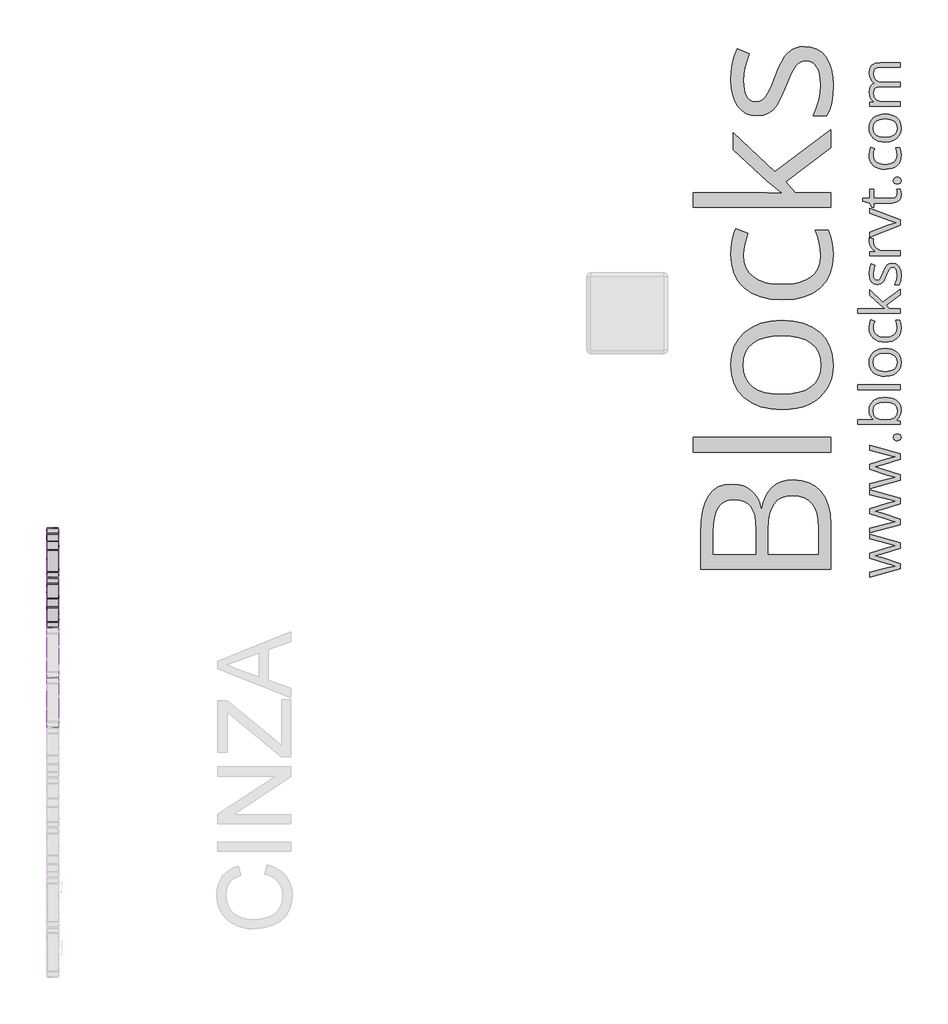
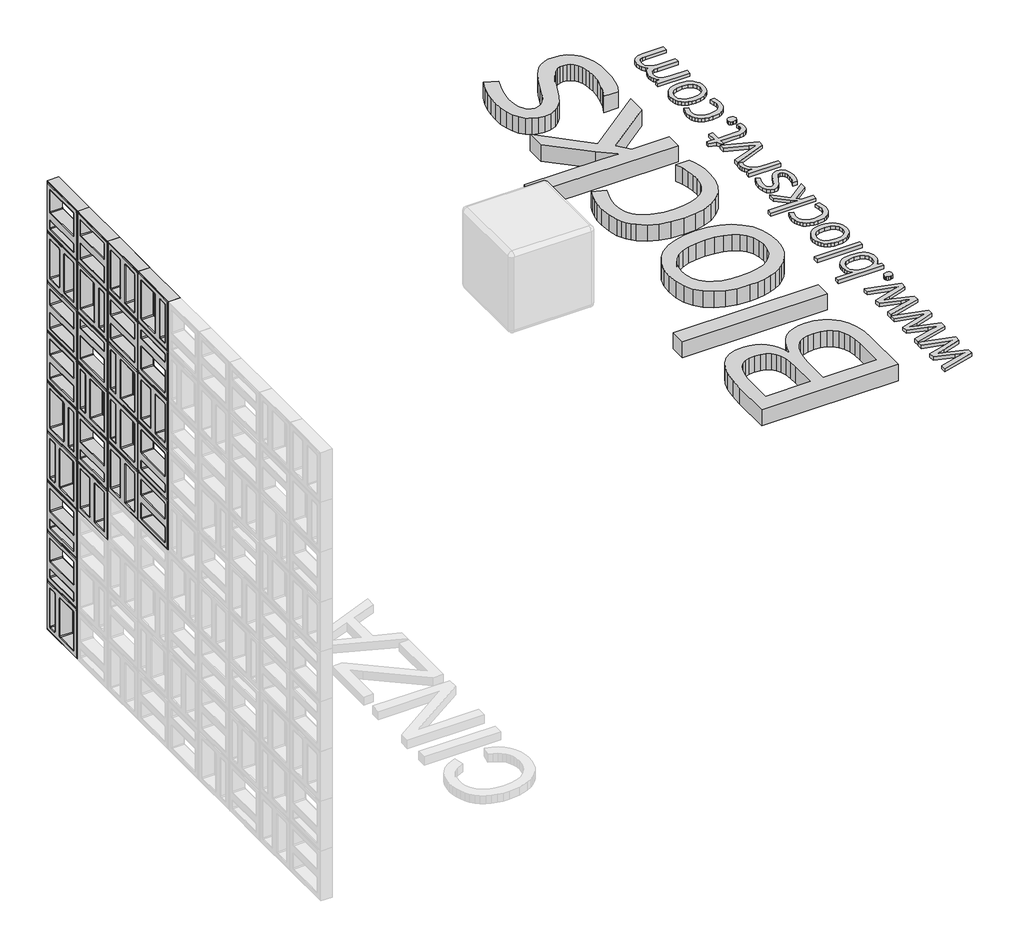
# One storey, part 8 of 8: 27 proxies.
"""IFC4 building model written with IfcOpenShell, lengths in millimetres."""

from ifc_helpers import new_model, si_unit, origin, origin_with_axes, place, context, project, spatial, polyline, outline, extrude, transform, mapped, element, save
from components import plate_08ec880d, generic_models_726e0611, generic_models_d4af8894, generic_models_55a6a26f, generic_models_a87dd402, sim_branco_8a5b93f5, sim_branco_d7bac734

model = new_model("IFC4")

# Units and contexts
model_context = context("Model", 3, world=origin())
ifc_project = project(units=[si_unit("LENGTHUNIT", "METRE", prefix="MILLI")], contexts=[model_context])

# Site, building, storey
site = spatial("IfcSite", under=ifc_project)
building = spatial("IfcBuilding", under=site)
storey = spatial("IfcBuildingStorey", under=building, Name="PORTOBELLO - SHOWROOM", Elevation=0.0)

# Proxies
placement = place(None, origin())
plate_shape = plate_08ec880d(model_context)
element("IfcBuildingElementProxy", 1, Name="PORTOBELLO - ELEMENTO ASSIM CINZA 30X30 (COBOGO) : ASSIM CINZA", ObjectType="PORTOBELLO - ELEMENTO ASSIM CINZA 30X30 (COBOGO) : ASSIM CINZA", at=placement, inside=storey, context=model_context, shape_type="MappedRepresentation", body=[
    mapped(plate_shape, transform((152562.9354422, 13194.1065277, 0.0), x_axis=(0.0, 1.0, 0.0), y_axis=(-1.0, 0.0, 0.0), z_axis=(0.0, 0.0, 1.0))),
])
element("IfcBuildingElementProxy", 2, Name="PORTOBELLO - ELEMENTO ASSIM CINZA 30X30 (COBOGO) : ASSIM CINZA", ObjectType="PORTOBELLO - ELEMENTO ASSIM CINZA 30X30 (COBOGO) : ASSIM CINZA", at=placement, inside=storey, context=model_context, shape_type="MappedRepresentation", body=[
    mapped(plate_shape, transform((152562.9354422, 13194.1065277, 924.0), x_axis=(0.0, 1.0, 0.0), y_axis=(-1.0, 0.0, 0.0), z_axis=(0.0, 0.0, 1.0))),
])
element("IfcBuildingElementProxy", 3, Name="PORTOBELLO - ELEMENTO ASSIM CINZA 30X30 (COBOGO) : ASSIM CINZA", ObjectType="PORTOBELLO - ELEMENTO ASSIM CINZA 30X30 (COBOGO) : ASSIM CINZA", at=placement, inside=storey, context=model_context, shape_type="MappedRepresentation", body=[
    mapped(plate_shape, transform((152562.9354422, 12886.1065277, 1540.0), x_axis=(0.0, 1.0, 0.0), y_axis=(-1.0, 0.0, 0.0), z_axis=(0.0, 0.0, 1.0))),
])
element("IfcBuildingElementProxy", 4, Name="PORTOBELLO - ELEMENTO ASSIM CINZA 30X30 (COBOGO) : ASSIM CINZA", ObjectType="PORTOBELLO - ELEMENTO ASSIM CINZA 30X30 (COBOGO) : ASSIM CINZA", at=placement, inside=storey, context=model_context, shape_type="MappedRepresentation", body=[
    mapped(plate_shape, transform((152562.9354422, 12578.1065277, 1848.0), x_axis=(0.0, 1.0, 0.0), y_axis=(-1.0, 0.0, 0.0), z_axis=(0.0, 0.0, 1.0))),
])
generic_models_shape = generic_models_726e0611(model_context)
element("IfcBuildingElementProxy", 5, Name="PORTOBELLO - ELEMENTO ASSIM CINZA 30X30 (COBOGO) : ASSIM CINZA", ObjectType="PORTOBELLO - ELEMENTO ASSIM CINZA 30X30 (COBOGO) : ASSIM CINZA", at=placement, inside=storey, context=model_context, shape_type="MappedRepresentation", body=[
    mapped(generic_models_shape, transform((152562.9354422, 12886.1065277, 1848.0), x_axis=(0.0, 1.0, 0.0), y_axis=(-1.0, 0.0, 0.0), z_axis=(0.0, 0.0, 1.0))),
])
element("IfcBuildingElementProxy", 6, Name="PORTOBELLO - ELEMENTO ASSIM CINZA 30X30 (COBOGO) : ASSIM CINZA", ObjectType="PORTOBELLO - ELEMENTO ASSIM CINZA 30X30 (COBOGO) : ASSIM CINZA", at=placement, inside=storey, context=model_context, shape_type="MappedRepresentation", body=[
    mapped(generic_models_shape, transform((152562.9354422, 12270.1065277, 2156.0), x_axis=(0.0, 1.0, 0.0), y_axis=(-1.0, 0.0, 0.0), z_axis=(0.0, 0.0, 1.0))),
])
generic_models_2_shape = generic_models_d4af8894(model_context)
element("IfcBuildingElementProxy", 7, Name="PORTOBELLO - ELEMENTO ASSIM CINZA 30X30 (COBOGO) : ASSIM CINZA", ObjectType="PORTOBELLO - ELEMENTO ASSIM CINZA 30X30 (COBOGO) : ASSIM CINZA", at=placement, inside=storey, context=model_context, shape_type="MappedRepresentation", body=[
    mapped(generic_models_2_shape, transform((152562.9354422, 13194.1065277, 308.0), x_axis=(0.0, 1.0, 0.0), y_axis=(-1.0, 0.0, 0.0), z_axis=(0.0, 0.0, 1.0))),
])
element("IfcBuildingElementProxy", 8, Name="PORTOBELLO - ELEMENTO ASSIM CINZA 30X30 (COBOGO) : ASSIM CINZA", ObjectType="PORTOBELLO - ELEMENTO ASSIM CINZA 30X30 (COBOGO) : ASSIM CINZA", at=placement, inside=storey, context=model_context, shape_type="MappedRepresentation", body=[
    mapped(generic_models_2_shape, transform((152562.9354422, 13194.1065277, 616.0), x_axis=(0.0, 1.0, 0.0), y_axis=(-1.0, 0.0, 0.0), z_axis=(0.0, 0.0, 1.0))),
])
element("IfcBuildingElementProxy", 9, Name="PORTOBELLO - ELEMENTO ASSIM CINZA 30X30 (COBOGO) : ASSIM CINZA", ObjectType="PORTOBELLO - ELEMENTO ASSIM CINZA 30X30 (COBOGO) : ASSIM CINZA", at=placement, inside=storey, context=model_context, shape_type="MappedRepresentation", body=[
    mapped(generic_models_2_shape, transform((152562.9354422, 12886.1065277, 1232.0), x_axis=(0.0, 1.0, 0.0), y_axis=(-1.0, 0.0, 0.0), z_axis=(0.0, 0.0, 1.0))),
])
element("IfcBuildingElementProxy", 10, Name="PORTOBELLO - ELEMENTO ASSIM CINZA 30X30 (COBOGO) : ASSIM CINZA", ObjectType="PORTOBELLO - ELEMENTO ASSIM CINZA 30X30 (COBOGO) : ASSIM CINZA", at=placement, inside=storey, context=model_context, shape_type="MappedRepresentation", body=[
    mapped(generic_models_2_shape, transform((152562.9354422, 12270.1065277, 1540.0), x_axis=(0.0, 1.0, 0.0), y_axis=(-1.0, 0.0, 0.0), z_axis=(0.0, 0.0, 1.0))),
])
element("IfcBuildingElementProxy", 11, Name="PORTOBELLO - ELEMENTO ASSIM CINZA 30X30 (COBOGO) : ASSIM CINZA", ObjectType="PORTOBELLO - ELEMENTO ASSIM CINZA 30X30 (COBOGO) : ASSIM CINZA", at=placement, inside=storey, context=model_context, shape_type="MappedRepresentation", body=[
    mapped(generic_models_2_shape, transform((152562.9354422, 13194.1065277, 2464.0), x_axis=(0.0, 1.0, 0.0), y_axis=(-1.0, 0.0, 0.0), z_axis=(0.0, 0.0, 1.0))),
])
generic_models_3_shape = generic_models_55a6a26f(model_context)
element("IfcBuildingElementProxy", 12, Name="PORTOBELLO - ELEMENTO ASSIM CINZA 30X30 (COBOGO) : ASSIM CINZA", ObjectType="PORTOBELLO - ELEMENTO ASSIM CINZA 30X30 (COBOGO) : ASSIM CINZA", at=placement, inside=storey, context=model_context, shape_type="MappedRepresentation", body=[
    mapped(generic_models_3_shape, transform((152562.9354422, 13194.1065277, 1232.0), x_axis=(0.0, 1.0, 0.0), y_axis=(-1.0, 0.0, 0.0), z_axis=(0.0, 0.0, 1.0))),
])
element("IfcBuildingElementProxy", 13, Name="PORTOBELLO - ELEMENTO ASSIM CINZA 30X30 (COBOGO) : ASSIM CINZA", ObjectType="PORTOBELLO - ELEMENTO ASSIM CINZA 30X30 (COBOGO) : ASSIM CINZA", at=placement, inside=storey, context=model_context, shape_type="MappedRepresentation", body=[
    mapped(generic_models_3_shape, transform((152562.9354422, 12886.1065277, 2156.0), x_axis=(0.0, 1.0, 0.0), y_axis=(-1.0, 0.0, 0.0), z_axis=(0.0, 0.0, 1.0))),
])
element("IfcBuildingElementProxy", 14, Name="PORTOBELLO - ELEMENTO ASSIM CINZA 30X30 (COBOGO) : ASSIM CINZA", ObjectType="PORTOBELLO - ELEMENTO ASSIM CINZA 30X30 (COBOGO) : ASSIM CINZA", at=placement, inside=storey, context=model_context, shape_type="MappedRepresentation", body=[
    mapped(generic_models_3_shape, transform((152562.9354422, 12270.1065277, 2464.0), x_axis=(0.0, 1.0, 0.0), y_axis=(-1.0, 0.0, 0.0), z_axis=(0.0, 0.0, 1.0))),
])
generic_models_4_shape = generic_models_a87dd402(model_context)
element("IfcBuildingElementProxy", 15, Name="PORTOBELLO - ELEMENTO ASSIM CINZA 30X30 (COBOGO) : ASSIM CINZA", ObjectType="PORTOBELLO - ELEMENTO ASSIM CINZA 30X30 (COBOGO) : ASSIM CINZA", at=placement, inside=storey, context=model_context, shape_type="MappedRepresentation", body=[
    mapped(generic_models_4_shape, transform((152562.9354422, 12578.1065277, 1540.0), x_axis=(0.0, -1.0, 0.0), y_axis=(1.0, 0.0, 0.0), z_axis=(0.0, 0.0, 1.0))),
])
element("IfcBuildingElementProxy", 16, Name="25mm OpenSans", ObjectType="25mm OpenSans", at=placement, inside=storey, context=model_context, shape_type="SweptSolid", body=[
    extrude(outline(polyline([(157789.1453964, 13223.3703802), (157679.3337531, 13188.8902738), (157633.6101337, 13176.672323), (157679.7085368, 13163.2550642), (157789.1453964, 13127.7255632), (157789.1453964, 13094.8195486), (157602.0533406, 13043.4741727), (157602.0533406, 13073.3069605), (157709.3914111, 13101.0409591), (157759.0877384, 13111.9846451), (157733.9022693, 13119.4053636), (157709.3914111, 13126.7511254), (157602.0533406, 13161.2312319), (157602.0533406, 13192.1134142), (157709.4663678, 13225.7689963), (157758.7879114, 13238.8114714), (157739.8238528, 13243.9085306), (157602.0533406, 13279.6629018), (157602.0533406, 13309.1958626), (157789.1453964, 13257.1758759), (157789.1453964, 13223.3703802)])), origin_with_axes(), (0.0, 0.0, 1.0), 20.0),
    extrude(outline(polyline([(157789.1453964, 13496.8126157), (157679.3337531, 13462.3325092), (157633.6101337, 13450.1145585), (157679.7085368, 13436.6972996), (157789.1453964, 13401.1677987), (157789.1453964, 13368.261784), (157602.0533406, 13316.9164081), (157602.0533406, 13346.7491959), (157709.3914111, 13374.4831945), (157759.0877384, 13385.4268805), (157733.9022693, 13392.8475991), (157709.3914111, 13400.1933609), (157602.0533406, 13434.6734673), (157602.0533406, 13465.5556496), (157709.4663678, 13499.2112318), (157758.7879114, 13512.2537068), (157739.8238528, 13517.350766), (157602.0533406, 13553.1051373), (157602.0533406, 13582.638098), (157789.1453964, 13530.6181113), (157789.1453964, 13496.8126157)])), origin_with_axes(), (0.0, 0.0, 1.0), 20.0),
    extrude(outline(polyline([(157789.1453964, 13770.2548511), (157679.3337531, 13735.7747446), (157633.6101337, 13723.5567939), (157679.7085368, 13710.1395351), (157789.1453964, 13674.6100341), (157789.1453964, 13641.7040195), (157602.0533406, 13590.3586436), (157602.0533406, 13620.1914313), (157709.3914111, 13647.92543), (157759.0877384, 13658.8691159), (157733.9022693, 13666.2898345), (157709.3914111, 13673.6355963), (157602.0533406, 13708.1157027), (157602.0533406, 13738.997885), (157709.4663678, 13772.6534672), (157758.7879114, 13785.6959422), (157739.8238528, 13790.7930014), (157602.0533406, 13826.5473727), (157602.0533406, 13856.0803334), (157789.1453964, 13804.0603467), (157789.1453964, 13770.2548511)])), origin_with_axes(), (0.0, 0.0, 1.0), 20.0),
    extrude(outline(polyline([(157770.0314244, 13885.2385104), (157759.6218053, 13886.540884), (157752.079282, 13890.4480047), (157747.4975504, 13896.79122), (157745.9703066, 13905.401877), (157747.4975504, 13914.265513), (157752.079282, 13920.9179249), (157759.6218053, 13925.0780247), (157770.0314244, 13926.4647246), (157780.2349124, 13925.0499159), (157787.7586965, 13920.8054897), (157792.3966456, 13914.1249691), (157793.9426286, 13905.401877), (157788.3583505, 13890.972702), (157780.9844799, 13886.6720583), (157770.0314244, 13885.2385104)])), origin_with_axes(), (0.0, 0.0, 1.0), 20.0),
    extrude(outline(polyline([(157597.2561084, 14073.604831), (157598.8559666, 14091.1892168), (157603.6555412, 14106.6888679), (157611.6548322, 14120.1037843), (157622.8538396, 14131.433966), (157636.9761603, 14140.4358036), (157653.7453915, 14146.8656876), (157695.2245847, 14152.0095948), (157736.8443219, 14146.8188396), (157753.7330153, 14140.3303957), (157768.007592, 14131.2465742), (157779.3541705, 14119.8625173), (157787.4588695, 14106.4733672), (157792.3216888, 14091.0791241), (157793.9426286, 14073.6797877), (157792.2279929, 14056.036842), (157787.0840857, 14039.9867272), (157778.3797327, 14025.979184), (157765.9837597, 14014.4639528), (157765.9837597, 14012.3651637), (157789.1453964, 14006.3686234), (157789.1453964, 13986.0553433), (157525.2976254, 13986.0553433), (157525.2976254, 14014.388996), (157587.8865142, 14014.388996), (157625.6647178, 14013.0397745), (157613.2359512, 14025.5950306), (157604.3582607, 14039.1996813), (157599.0316465, 14055.2029481), (157597.2561084, 14073.604831)]), holes=[polyline([(157621.2422694, 14069.6321231), (157625.4773259, 14044.3623277), (157638.1824956, 14027.3190359), (157660.913131, 14017.621506), (157695.2245847, 14014.388996), (157729.6765824, 14017.7152019), (157752.678936, 14027.6938197), (157765.6370847, 14044.9994601), (157769.9564676, 14070.3067339), (157765.1123874, 14093.3840442), (157750.5801469, 14109.6965076), (157726.9781393, 14119.3940376), (157694.9247577, 14122.6265475), (157662.4778532, 14119.3940376), (157639.4942388, 14109.6965076), (157625.8052617, 14093.2153915), (157621.2422694, 14069.6321231)])]), origin_with_axes(), (0.0, 0.0, 1.0), 20.0),
    extrude(outline(polyline([(157789.1453964, 14229.2900072), (157789.1453964, 14200.9563546), (157525.2976254, 14200.9563546), (157525.2976254, 14229.2900072), (157789.1453964, 14229.2900072)])), origin_with_axes(), (0.0, 0.0, 1.0), 20.0),
    extrude(outline(polyline([(157695.449455, 14454.2352234), (157717.3766477, 14452.7946483), (157736.7599956, 14448.472923), (157753.5994986, 14441.2700475), (157767.8951569, 14431.1860218), (157779.2909258, 14418.5675209), (157787.4307607, 14403.7612198), (157792.3146616, 14386.7671184), (157793.9426286, 14367.5852168), (157790.9537281, 14343.8895132), (157781.9870265, 14323.023427), (157767.4360468, 14305.7927434), (157747.6943119, 14293.0032474), (157723.4645415, 14285.0765708), (157695.449455, 14282.4343452), (157673.5316319, 14283.8632083), (157654.1763928, 14288.1497976), (157637.3837377, 14295.2941132), (157623.1536666, 14305.2961549), (157611.8234849, 14317.8373567), (157603.7304979, 14332.5991523), (157598.8747058, 14349.5815416), (157597.2561084, 14368.7845248), (157598.9121841, 14387.3808268), (157603.8804114, 14403.9673508), (157612.1607903, 14418.5440969), (157623.7533206, 14431.1110651), (157638.1707836, 14441.2278843), (157654.9259603, 14448.4541838), (157674.0188508, 14452.7899635), (157695.449455, 14454.2352234)]), holes=[polyline([(157695.2245847, 14311.8923492), (157727.3810318, 14315.4715342), (157750.8424955, 14326.209089), (157765.1779746, 14343.8801436), (157769.9564676, 14368.2598276), (157765.1967138, 14392.6582507), (157750.9174523, 14410.3855228), (157727.4747278, 14421.1792953), (157695.2245847, 14424.7772194), (157663.3023775, 14421.1792953), (157640.0938928, 14410.3855228), (157625.9551752, 14392.5645548), (157621.2422694, 14367.8850438), (157625.8895881, 14343.5522078), (157639.8315442, 14326.0216972), (157662.9744417, 14315.4246862), (157695.2245847, 14311.8923492)])]), origin_with_axes(), (0.0, 0.0, 1.0), 20.0),
    extrude(outline(polyline([(157793.9426286, 14579.6378714), (157792.3568248, 14560.2943443), (157787.5994134, 14543.2651069), (157779.6703943, 14528.5501593), (157768.5697677, 14516.1495015), (157754.5692516, 14506.3114276), (157737.9405644, 14499.284232), (157696.7986765, 14493.6624755), (157674.3514714, 14495.0889963), (157654.6073941, 14499.3685584), (157637.5664448, 14506.5011619), (157623.2286233, 14516.4868069), (157611.865648, 14529.1099926), (157603.7492371, 14544.1552184), (157598.8793906, 14561.6224842), (157597.2561084, 14581.5117902), (157600.0295082, 14608.75857), (157606.5507458, 14630.0837662), (157630.0122095, 14621.3138261), (157623.7533206, 14600.5882839), (157621.2422694, 14580.7622227), (157625.9317513, 14555.54396), (157640.0001969, 14537.5309153), (157663.4476062, 14526.7230885), (157696.2739793, 14523.1204795), (157727.7370764, 14526.6340773), (157750.9174523, 14537.1748707), (157765.1967138, 14554.6116854), (157769.9564676, 14578.8133471), (157767.4266772, 14602.7807689), (157759.8373059, 14627.3103664), (157784.4980777, 14627.3103664), (157791.5814909, 14605.9102134), (157793.9426286, 14579.6378714)])), origin_with_axes(), (0.0, 0.0, 1.0), 20.0),
    extrude(outline(polyline([(157695.2995415, 14698.8940656), (157667.4156293, 14721.7558753), (157602.0533406, 14781.7212778), (157602.0533406, 14815.077033), (157681.8073259, 14739.8204528), (157789.1453964, 14820.3240057), (157789.1453964, 14786.218683), (157702.7952168, 14720.631524), (157720.7848375, 14699.6436331), (157789.1453964, 14699.6436331), (157789.1453964, 14671.6098075), (157525.2976254, 14671.6098075), (157525.2976254, 14699.6436331), (157666.291278, 14699.6436331), (157695.2995415, 14698.8940656)])), origin_with_axes(), (0.0, 0.0, 1.0), 20.0),
    extrude(outline(polyline([(157738.6995015, 14980.5815439), (157762.1890741, 14975.6812461), (157779.5884104, 14960.9803529), (157790.354074, 14937.4345629), (157793.9426286, 14905.9995745), (157790.9818369, 14872.7000369), (157782.0994616, 14847.6082638), (157755.564771, 14847.6082638), (157766.0961948, 14876.7664408), (157769.9564676, 14906.749142), (157768.1762447, 14926.5658337), (157762.835576, 14941.1917701), (157753.8407657, 14950.2146893), (157741.0981176, 14953.222329), (157730.8103033, 14950.8330825), (157722.1340591, 14943.665343), (157703.5447843, 14906.449315), (157686.3047311, 14869.0458952), (157669.6268535, 14852.5179312), (157647.2522627, 14847.0835666), (157626.5267205, 14851.7683636), (157610.6733672, 14865.8227548), (157600.6104231, 14888.0474321), (157597.2561084, 14917.2430875), (157600.3668136, 14947.2820063), (157609.6989294, 14976.6837927), (157632.8605661, 14966.4896743), (157624.1468436, 14939.4302864), (157621.2422694, 14915.0693416), (157622.84447, 14897.2483736), (157627.6510718, 14884.4120296), (157635.287291, 14876.6540057), (157645.3783439, 14874.0679977), (157658.3833406, 14877.9282705), (157668.577459, 14890.4085699), (157682.6318502, 14923.464498), (157694.9622361, 14951.5451716), (157707.3675787, 14968.7758553), (157721.4219699, 14977.6301217), (157738.6995015, 14980.5815439)])), origin_with_axes(), (0.0, 0.0, 1.0), 20.0),
    extrude(outline(polyline([(157597.2561084, 15113.0301267), (157599.1300272, 15135.6670661), (157623.790799, 15131.6943582), (157621.2422694, 15111.0062943), (157625.936436, 15089.6717285), (157640.018936, 15071.6914773), (157661.1098925, 15059.464157), (157686.8294284, 15055.3883835), (157789.1453964, 15055.3883835), (157789.1453964, 15027.0547308), (157602.0533406, 15027.0547308), (157602.0533406, 15050.4412378), (157635.633966, 15053.6643782), (157619.312133, 15066.6506357), (157607.2253565, 15080.4239391), (157599.7484204, 15095.9962045), (157597.2561084, 15113.0301267)])), origin_with_axes(), (0.0, 0.0, 1.0), 20.0),
    extrude(outline(polyline([(157789.1453964, 15212.6476516), (157602.0533406, 15140.6891686), (157602.0533406, 15171.4963941), (157712.9893352, 15212.3478246), (157763.5101868, 15228.5384832), (157726.0318103, 15241.9557421), (157602.0533406, 15287.3795344), (157602.0533406, 15318.18676), (157789.1453964, 15246.228277), (157789.1453964, 15212.6476516)])), origin_with_axes(), (0.0, 0.0, 1.0), 20.0),
    extrude(outline(polyline([(157769.9564676, 15409.5590421), (157768.8321163, 15424.2505657), (157766.508457, 15435.4940786), (157788.6956559, 15435.4940786), (157792.4434935, 15421.7769928), (157793.9426286, 15405.5113774), (157790.3821828, 15381.5064772), (157779.7008455, 15364.3601199), (157761.8986166, 15354.0723055), (157736.9754962, 15350.6430341), (157626.0395016, 15350.6430341), (157626.0395016, 15323.5086895), (157612.0225887, 15323.5086895), (157599.8795947, 15350.4931206), (157558.8782508, 15362.5611578), (157558.8782508, 15379.0516435), (157602.0533406, 15379.0516435), (157602.0533406, 15434.1448571), (157626.0395016, 15434.1448571), (157626.0395016, 15379.0516435), (157735.2514909, 15379.0516435), (157750.0835584, 15381.0848455), (157760.9991356, 15387.1844512), (157767.7171346, 15396.8445028), (157769.9564676, 15409.5590421)])), origin_with_axes(), (0.0, 0.0, 1.0), 20.0),
    extrude(outline(polyline([(157770.0314244, 15468.3251365), (157759.6218053, 15469.6275101), (157752.079282, 15473.5346308), (157747.4975504, 15479.8778461), (157745.9703066, 15488.4885031), (157747.4975504, 15497.3521392), (157752.079282, 15504.004551), (157759.6218053, 15508.1646508), (157770.0314244, 15509.5513507), (157780.2349124, 15508.136542), (157787.7586965, 15503.8921159), (157792.3966456, 15497.2115952), (157793.9426286, 15488.4885031), (157788.3583505, 15474.0593281), (157780.9844799, 15469.7586844), (157770.0314244, 15468.3251365)])), origin_with_axes(), (0.0, 0.0, 1.0), 20.0),
    extrude(outline(polyline([(157793.9426286, 15644.6234199), (157792.3568248, 15625.2798928), (157787.5994134, 15608.2506554), (157779.6703943, 15593.5357078), (157768.5697677, 15581.13505), (157754.5692516, 15571.2969761), (157737.9405644, 15564.2697805), (157696.7986765, 15558.648024), (157674.3514714, 15560.0745447), (157654.6073941, 15564.3541069), (157637.5664448, 15571.4867104), (157623.2286233, 15581.4723554), (157611.865648, 15594.0955411), (157603.7492371, 15609.1407669), (157598.8793906, 15626.6080327), (157597.2561084, 15646.4973387), (157600.0295082, 15673.7441185), (157606.5507458, 15695.0693147), (157630.0122095, 15686.2993746), (157623.7533206, 15665.5738324), (157621.2422694, 15645.7477712), (157625.9317513, 15620.5295085), (157640.0001969, 15602.5164638), (157663.4476062, 15591.708637), (157696.2739793, 15588.106028), (157727.7370764, 15591.6196258), (157750.9174523, 15602.1604192), (157765.1967138, 15619.5972339), (157769.9564676, 15643.7988956), (157767.4266772, 15667.7663174), (157759.8373059, 15692.2959149), (157784.4980777, 15692.2959149), (157791.5814909, 15670.8957618), (157793.9426286, 15644.6234199)])), origin_with_axes(), (0.0, 0.0, 1.0), 20.0),
    extrude(outline(polyline([(157695.449455, 15898.2021157), (157717.3766477, 15896.7615406), (157736.7599956, 15892.4398153), (157753.5994986, 15885.2369398), (157767.8951569, 15875.1529141), (157779.2909258, 15862.5344132), (157787.4307607, 15847.7281121), (157792.3146616, 15830.7340107), (157793.9426286, 15811.5521091), (157790.9537281, 15787.8564055), (157781.9870265, 15766.9903194), (157767.4360468, 15749.7596357), (157747.6943119, 15736.9701397), (157723.4645415, 15729.0434631), (157695.449455, 15726.4012375), (157673.5316319, 15727.8301006), (157654.1763928, 15732.11669), (157637.3837377, 15739.2610055), (157623.1536666, 15749.2630472), (157611.8234849, 15761.804249), (157603.7304979, 15776.5660446), (157598.8747058, 15793.548434), (157597.2561084, 15812.7514171), (157598.9121841, 15831.3477191), (157603.8804114, 15847.9342431), (157612.1607903, 15862.5109892), (157623.7533206, 15875.0779574), (157638.1707836, 15885.1947766), (157654.9259603, 15892.4210761), (157674.0188508, 15896.7568558), (157695.449455, 15898.2021157)]), holes=[polyline([(157695.2245847, 15755.8592415), (157727.3810318, 15759.4384265), (157750.8424955, 15770.1759814), (157765.1779746, 15787.8470359), (157769.9564676, 15812.2267199), (157765.1967138, 15836.625143), (157750.9174523, 15854.3524151), (157727.4747278, 15865.1461876), (157695.2245847, 15868.7441117), (157663.3023775, 15865.1461876), (157640.0938928, 15854.3524151), (157625.9551752, 15836.5314471), (157621.2422694, 15811.8519361), (157625.8895881, 15787.5191001), (157639.8315442, 15769.9885895), (157662.9744417, 15759.3915785), (157695.2245847, 15755.8592415)])]), origin_with_axes(), (0.0, 0.0, 1.0), 20.0),
    extrude(outline(polyline([(157789.1453964, 16187.2353558), (157666.3662348, 16187.2353558), (157646.6244999, 16184.8367397), (157632.5232607, 16177.6408914), (157624.0625172, 16165.3854623), (157621.2422694, 16147.8081036), (157625.0744334, 16124.7401629), (157636.5709254, 16108.6057218), (157656.0315724, 16099.1049533), (157683.7562015, 16095.9380305), (157789.1453964, 16095.9380305), (157789.1453964, 16067.529421), (157666.3662348, 16067.529421), (157646.6244999, 16065.1308049), (157632.5232607, 16057.9349566), (157624.0625172, 16045.6420491), (157621.2422694, 16027.9522554), (157625.2711949, 16004.7718795), (157637.3579713, 15988.7498735), (157658.6082108, 15979.4177577), (157690.1275255, 15976.3070525), (157789.1453964, 15976.3070525), (157789.1453964, 15947.9733998), (157602.0533406, 15947.9733998), (157602.0533406, 15971.0600798), (157626.0395016, 15975.6324417), (157613.9620947, 15986.7166716), (157604.8642188, 15999.7310378), (157599.158136, 16015.2564553), (157597.2561084, 16032.5246173), (157599.2237232, 16052.6223968), (157605.1265675, 16068.916121), (157614.9646413, 16081.40579), (157628.7379447, 16090.0914037), (157615.7142088, 16101.7190701), (157605.7262215, 16115.7640917), (157599.3736367, 16132.8073834), (157597.2561084, 16152.0806386), (157601.3599906, 16179.936442), (157613.6716373, 16199.7906119), (157635.0155728, 16211.6806269), (157666.2163213, 16215.6439652), (157789.1453964, 16215.6439652), (157789.1453964, 16187.2353558)])), origin_with_axes(), (0.0, 0.0, 1.0), 20.0),
])
element("IfcBuildingElementProxy", 17, Name="80mm OpenSans", ObjectType="80mm OpenSans", at=placement, inside=storey, context=model_context, shape_type="SweptSolid", body=[
    extrude(outline(polyline([(156559.7619894, 13092.5162261), (156559.7619894, 13317.4993467), (156562.6989686, 13391.3294446), (156571.5099061, 13454.1777943), (156586.1948019, 13506.0443958), (156606.7536562, 13546.9292491), (156633.6521789, 13577.8989809), (156667.3560806, 13600.0202178), (156707.8653611, 13613.29296), (156755.1800204, 13617.7172074), (156788.8388533, 13615.2459385), (156819.3879436, 13607.8321318), (156846.8272912, 13595.4757872), (156871.1568962, 13578.1769047), (156891.941094, 13556.1458052), (156908.7442204, 13529.5928094), (156921.5662752, 13498.5179172), (156930.4072586, 13462.9211287), (156935.6953234, 13462.9211287), (156945.6104449, 13505.4547465), (156959.6117983, 13542.3172153), (156977.6993836, 13573.508535), (156999.8732007, 13599.0287057), (157026.1332498, 13618.8777273), (157056.4795308, 13633.0555999), (157090.9120436, 13641.5623235), (157129.4307883, 13644.397898), (157180.6664275, 13639.8835132), (157225.9680168, 13626.3403586), (157265.335556, 13603.7684342), (157298.7690452, 13572.1677402), (157325.4272015, 13532.4696969), (157344.4687416, 13485.6057249), (157355.8936657, 13431.5758242), (157359.7019737, 13370.3799947), (157359.7019737, 13092.5162261), (156559.7619894, 13092.5162261)]), holes=[polyline([(156898.1981366, 13185.5380933), (156898.1981366, 13337.449773), (156896.2676925, 13382.9316372), (156890.4763602, 13421.5480308), (156880.8241396, 13453.298954), (156867.3110309, 13478.1844067), (156849.230957, 13496.9555344), (156825.8778413, 13510.3634828), (156797.2516837, 13518.4082519), (156763.3524842, 13521.0898415), (156732.1498973, 13518.1002822), (156705.6044129, 13509.1316041), (156683.7160311, 13494.1838073), (156666.4847517, 13473.2568918), (156653.4448647, 13445.8250556), (156644.1306596, 13411.3624969), (156638.5421366, 13369.8692157), (156636.6792956, 13321.345212), (156636.6792956, 13185.5380933), (156898.1981366, 13185.5380933)]), polyline([(156975.1154428, 13185.5380933), (157282.7846675, 13185.5380933), (157282.7846675, 13351.1506682), (157280.3734903, 13396.2569596), (157273.1399585, 13435.4292009), (157261.0840721, 13468.6673923), (157244.2058312, 13495.9715337), (157222.2047775, 13517.2665106), (157194.7804528, 13532.4772084), (157161.9328571, 13541.603627), (157123.6619904, 13544.6457666), (157087.967553, 13541.5360239), (157057.3208138, 13532.206796), (157031.7217728, 13516.6580827), (157011.1704301, 13494.8898841), (156995.3963731, 13466.782017), (156984.1291896, 13432.2142979), (156977.3688795, 13391.186727), (156975.1154428, 13343.6993042), (156975.1154428, 13185.5380933)])]), origin_with_axes(), (0.0, 0.0, 1.0), 100.0),
    extrude(outline(polyline([(157359.7019737, 13906.1571056), (157359.7019737, 13815.2985377), (156513.6116057, 13815.2985377), (156513.6116057, 13906.1571056), (157359.7019737, 13906.1571056)])), origin_with_axes(), (0.0, 0.0, 1.0), 100.0),
    extrude(outline(polyline([(157059.2437464, 14627.4972177), (157129.5584831, 14622.8776725), (157191.7157789, 14609.0190367), (157245.7156338, 14585.9213105), (157291.5580478, 14553.5844938), (157328.1012797, 14513.120282), (157354.2035882, 14465.6403707), (157369.8649733, 14411.1447597), (157375.085435, 14349.6334491), (157372.6892806, 14310.5062765), (157365.5008175, 14273.6475634), (157353.5200457, 14239.05731), (157336.7469652, 14206.7355162), (157315.497057, 14177.3281672), (157290.0858025, 14151.4812482), (157260.5132015, 14129.1947592), (157226.779254, 14110.4687002), (157189.4473192, 14095.6410867), (157149.0807564, 14085.0499342), (157105.6795655, 14078.6952427), (157059.2437464, 14076.5770122), (156988.9590556, 14081.1590001), (156926.8918973, 14094.904964), (156873.0422715, 14117.8149038), (156827.4101783, 14149.8888196), (156791.0772671, 14190.1051533), (156765.1251878, 14237.442347), (156749.5539401, 14291.9004007), (156744.3635242, 14353.4793144), (156749.6741234, 14413.1127611), (156765.6059209, 14466.3013788), (156792.1589168, 14513.0451675), (156829.3331109, 14553.3441272), (156875.5661206, 14585.7861043), (156929.2955631, 14608.9589451), (156990.5214384, 14622.8626495), (157059.2437464, 14627.4972177)]), holes=[polyline([(157058.5226467, 14171.0410788), (157113.5665939, 14173.9104549), (157161.6399103, 14182.5185831), (157202.7425958, 14196.8654634), (157236.8746504, 14216.9510959), (157263.6905472, 14242.5952056), (157282.8447592, 14273.6175176), (157294.3372864, 14310.0180318), (157298.1681288, 14351.7967483), (157294.3523093, 14393.5904878), (157282.9048508, 14430.0360707), (157263.8257534, 14461.1334973), (157237.115017, 14486.8827673), (157203.0580769, 14507.0735602), (157161.9403685, 14521.4955551), (157113.7618918, 14530.1487521), (157058.5226467, 14533.033151), (157003.8467608, 14530.1487521), (156956.1565287, 14521.4955551), (156915.4519503, 14507.0735602), (156881.7330258, 14486.8827673), (156855.2851903, 14461.0583827), (156836.3938793, 14429.7356125), (156825.0590926, 14392.9144568), (156821.2808304, 14350.5949154), (156825.0065125, 14308.8537562), (156836.1835585, 14272.5659138), (156854.8119686, 14241.7313882), (156880.8917427, 14216.3501795), (156914.3477663, 14196.5274479), (156955.1049249, 14182.368354), (157003.1632183, 14173.8728976), (157058.5226467, 14171.0410788)])]), origin_with_axes(), (0.0, 0.0, 1.0), 100.0),
    extrude(outline(polyline([(157375.085435, 15029.6305091), (157370.0001795, 14967.6009081), (157354.744413, 14912.9926253), (157329.3181355, 14865.8056607), (157293.721347, 14826.0400143), (157248.8253764, 14794.4919004), (157195.5015525, 14771.9575334), (157133.7498754, 14758.4369132), (157063.5703449, 14753.9300397), (156991.5880651, 14758.5045163), (156928.2740052, 14772.2279458), (156873.6281651, 14795.1003283), (156827.6505449, 14827.1216639), (156808.1301494, 14846.3904256), (156791.2124733, 14867.6008986), (156776.8975167, 14890.7530829), (156765.1852794, 14915.8469784), (156749.568963, 14971.8599035), (156744.3635242, 15035.6396737), (156746.5869151, 15079.3563457), (156753.2570878, 15123.0129261), (156762.9318427, 15161.9222666), (156774.1689804, 15191.3972187), (156849.4037205, 15163.2743286), (156829.3331109, 15096.8129687), (156823.2939006, 15062.9513265), (156821.2808304, 15033.2360078), (156825.040314, 14989.9136872), (156836.3187647, 14952.367676), (156855.1161826, 14920.5979742), (156881.4325675, 14894.6045818), (156915.2679197, 14874.3874988), (156956.6222389, 14859.9467252), (157005.4955253, 14851.2822611), (157061.8877788, 14848.3941064), (157115.6547786, 14851.2109023), (157162.7816516, 14859.6612899), (157203.2683977, 14873.7452693), (157237.115017, 14893.4628405), (157263.8257534, 14918.708843), (157282.9048508, 14949.3781166), (157294.3523093, 14985.4706612), (157298.1681288, 15026.9864767), (157296.1400358, 15065.1897403), (157290.0557566, 15103.8436912), (157279.9152915, 15142.9483295), (157265.7186402, 15182.5036552), (157344.7992457, 15182.5036552), (157358.0494535, 15150.1443041), (157367.5138876, 15113.878996), (157373.1925481, 15073.7077311), (157375.085435, 15029.6305091)])), origin_with_axes(), (0.0, 0.0, 1.0), 100.0),
    extrude(outline(polyline([(157058.7630133, 15414.21704), (156969.3466448, 15485.3655483), (156759.7469855, 15677.6588137), (156759.7469855, 15784.6219426), (157015.4970286, 15543.2938945), (157359.7019737, 15801.4476034), (157359.7019737, 15692.0808086), (157082.7996715, 15481.7600495), (157140.4876511, 15414.4574066), (157359.7019737, 15414.4574066), (157359.7019737, 15324.560305), (156513.6116057, 15324.560305), (156513.6116057, 15414.4574066), (156965.7411461, 15414.4574066), (157058.7630133, 15409.8904416), (157058.7630133, 15414.21704)])), origin_with_axes(), (0.0, 0.0, 1.0), 100.0),
    extrude(outline(polyline([(157197.9352642, 16315.3513553), (157238.038926, 16311.422864), (157273.2601417, 16299.63739), (157303.5989112, 16279.9949334), (157329.0552346, 16252.4954942), (157349.1934472, 16217.9052408), (157363.5778849, 16176.9903417), (157372.2085474, 16129.7507969), (157375.085435, 16076.1866064), (157372.711815, 16019.5051618), (157365.590955, 15969.4037524), (157353.722855, 15925.8823782), (157337.107515, 15888.9410392), (157252.0177451, 15888.9410392), (157271.1569342, 15934.0698649), (157285.7892498, 15982.4436395), (157295.073409, 16031.4784222), (157298.1681288, 16078.5902722), (157296.7409522, 16112.444403), (157292.4594225, 16142.1371873), (157285.3235396, 16167.6686252), (157275.3333035, 16189.0387166), (157262.4135997, 16205.9169575), (157246.4893137, 16217.9728439), (157227.5604454, 16225.2063757), (157205.6269948, 16227.6175529), (157188.4858529, 16225.7021318), (157172.6366814, 16219.9558682), (157158.0794803, 16210.3787622), (157144.8142496, 16196.9708138), (157117.292276, 16151.8119422), (157085.2033373, 16077.6288059), (157055.5180644, 16005.4587397), (157029.9190235, 15957.6858816), (157004.7706698, 15926.6485467), (156976.437459, 15904.6850503), (156943.5372831, 15891.6151174), (156904.6880343, 15887.2584731), (156869.5043759, 15891.0142009), (156838.2266745, 15902.2813844), (156810.8549299, 15921.0600236), (156787.3891424, 15947.3501185), (156768.5654345, 15980.1902028), (156755.1199288, 16018.61881), (156747.0526254, 16062.6359403), (156744.3635242, 16112.2415937), (156746.8573275, 16160.660437), (156754.3387374, 16208.5685013), (156766.8077538, 16255.9657867), (156784.2643768, 16302.8522931), (156858.5376506, 16270.1624379), (156842.2377918, 16225.6946203), (156830.5950355, 16183.3901019), (156823.6093817, 16143.2488827), (156821.2808304, 16105.2709628), (156826.4186661, 16048.123808), (156832.8409607, 16025.5443722), (156841.8321732, 16006.9610308), (156853.0918452, 15992.4488985), (156866.3195187, 15982.0830896), (156881.5151935, 15975.8636043), (156898.6788698, 15973.7904425), (156921.3634659, 15976.8851623), (156940.3824717, 15986.1693215), (156957.1480408, 16002.36402), (156973.0723269, 16026.1903574), (156992.0913326, 16066.5118515), (157018.141061, 16132.19202), (157037.8811665, 16181.5648182), (157057.6813637, 16222.2393507), (157077.5416525, 16254.2156175), (157097.462033, 16277.4936187), (157118.7044296, 16294.0563785), (157142.5307671, 16305.8869212), (157168.9410452, 16312.9852468), (157197.9352642, 16315.3513553)])), origin_with_axes(), (0.0, 0.0, 1.0), 100.0),
])
sim_branco_shape = sim_branco_8a5b93f5(model_context)
element("IfcBuildingElementProxy", 18, Name="PORTOBELLO - ELEMENTO SIM CINZA 30X30 (COBOGO) : SIM CINZA", ObjectType="PORTOBELLO - ELEMENTO SIM CINZA 30X30 (COBOGO) : SIM CINZA", at=placement, inside=storey, context=model_context, shape_type="MappedRepresentation", body=[
    mapped(sim_branco_shape, transform((152562.9354422, 12886.1065277, 924.0), x_axis=(0.0, 1.0, 0.0), y_axis=(-1.0, 0.0, 0.0), z_axis=(0.0, 0.0, 1.0))),
])
element("IfcBuildingElementProxy", 19, Name="PORTOBELLO - ELEMENTO SIM CINZA 30X30 (COBOGO) : SIM CINZA", ObjectType="PORTOBELLO - ELEMENTO SIM CINZA 30X30 (COBOGO) : SIM CINZA", at=placement, inside=storey, context=model_context, shape_type="MappedRepresentation", body=[
    mapped(sim_branco_shape, transform((152562.9354422, 12578.1065277, 1232.0), x_axis=(0.0, 1.0, 0.0), y_axis=(-1.0, 0.0, 0.0), z_axis=(0.0, 0.0, 1.0))),
])
element("IfcBuildingElementProxy", 20, Name="PORTOBELLO - ELEMENTO SIM CINZA 30X30 (COBOGO) : SIM CINZA", ObjectType="PORTOBELLO - ELEMENTO SIM CINZA 30X30 (COBOGO) : SIM CINZA", at=placement, inside=storey, context=model_context, shape_type="MappedRepresentation", body=[
    mapped(sim_branco_shape, transform((152562.9354422, 12270.1065277, 1848.0), x_axis=(0.0, 1.0, 0.0), y_axis=(-1.0, 0.0, 0.0), z_axis=(0.0, 0.0, 1.0))),
])
element("IfcBuildingElementProxy", 21, Name="PORTOBELLO - ELEMENTO SIM CINZA 30X30 (COBOGO) : SIM CINZA", ObjectType="PORTOBELLO - ELEMENTO SIM CINZA 30X30 (COBOGO) : SIM CINZA", at=placement, inside=storey, context=model_context, shape_type="MappedRepresentation", body=[
    mapped(sim_branco_shape, transform((152562.9354422, 13194.1065277, 2156.0), x_axis=(0.0, 1.0, 0.0), y_axis=(-1.0, 0.0, 0.0), z_axis=(0.0, 0.0, 1.0))),
])
element("IfcBuildingElementProxy", 22, Name="PORTOBELLO - ELEMENTO SIM CINZA 30X30 (COBOGO) : SIM CINZA", ObjectType="PORTOBELLO - ELEMENTO SIM CINZA 30X30 (COBOGO) : SIM CINZA", at=placement, inside=storey, context=model_context, shape_type="MappedRepresentation", body=[
    mapped(sim_branco_shape, transform((152562.9354422, 12578.1065277, 2464.0), x_axis=(0.0, 1.0, 0.0), y_axis=(-1.0, 0.0, 0.0), z_axis=(0.0, 0.0, 1.0))),
])
sim_branco_2_shape = sim_branco_d7bac734(model_context)
element("IfcBuildingElementProxy", 23, Name="PORTOBELLO - ELEMENTO SIM CINZA 30X30 (COBOGO) : SIM CINZA", ObjectType="PORTOBELLO - ELEMENTO SIM CINZA 30X30 (COBOGO) : SIM CINZA", at=placement, inside=storey, context=model_context, shape_type="MappedRepresentation", body=[
    mapped(sim_branco_2_shape, transform((152562.9354422, 12270.1065277, 1232.0), x_axis=(0.0, 1.0, 0.0), y_axis=(-1.0, 0.0, 0.0), z_axis=(0.0, 0.0, 1.0))),
])
element("IfcBuildingElementProxy", 24, Name="PORTOBELLO - ELEMENTO SIM CINZA 30X30 (COBOGO) : SIM CINZA", ObjectType="PORTOBELLO - ELEMENTO SIM CINZA 30X30 (COBOGO) : SIM CINZA", at=placement, inside=storey, context=model_context, shape_type="MappedRepresentation", body=[
    mapped(sim_branco_2_shape, transform((152562.9354422, 13194.1065277, 1540.0), x_axis=(0.0, 1.0, 0.0), y_axis=(-1.0, 0.0, 0.0), z_axis=(0.0, 0.0, 1.0))),
])
element("IfcBuildingElementProxy", 25, Name="PORTOBELLO - ELEMENTO SIM CINZA 30X30 (COBOGO) : SIM CINZA", ObjectType="PORTOBELLO - ELEMENTO SIM CINZA 30X30 (COBOGO) : SIM CINZA", at=placement, inside=storey, context=model_context, shape_type="MappedRepresentation", body=[
    mapped(sim_branco_2_shape, transform((152562.9354422, 13194.1065277, 1848.0), x_axis=(0.0, 1.0, 0.0), y_axis=(-1.0, 0.0, 0.0), z_axis=(0.0, 0.0, 1.0))),
])
element("IfcBuildingElementProxy", 26, Name="PORTOBELLO - ELEMENTO SIM CINZA 30X30 (COBOGO) : SIM CINZA", ObjectType="PORTOBELLO - ELEMENTO SIM CINZA 30X30 (COBOGO) : SIM CINZA", at=placement, inside=storey, context=model_context, shape_type="MappedRepresentation", body=[
    mapped(sim_branco_2_shape, transform((152562.9354422, 12578.1065277, 2156.0), x_axis=(0.0, 1.0, 0.0), y_axis=(-1.0, 0.0, 0.0), z_axis=(0.0, 0.0, 1.0))),
])
element("IfcBuildingElementProxy", 27, Name="PORTOBELLO - ELEMENTO SIM CINZA 30X30 (COBOGO) : SIM CINZA", ObjectType="PORTOBELLO - ELEMENTO SIM CINZA 30X30 (COBOGO) : SIM CINZA", at=placement, inside=storey, context=model_context, shape_type="MappedRepresentation", body=[
    mapped(sim_branco_2_shape, transform((152562.9354422, 12886.1065277, 2464.0), x_axis=(0.0, 1.0, 0.0), y_axis=(-1.0, 0.0, 0.0), z_axis=(0.0, 0.0, 1.0))),
])

save(model, "model.ifc")
